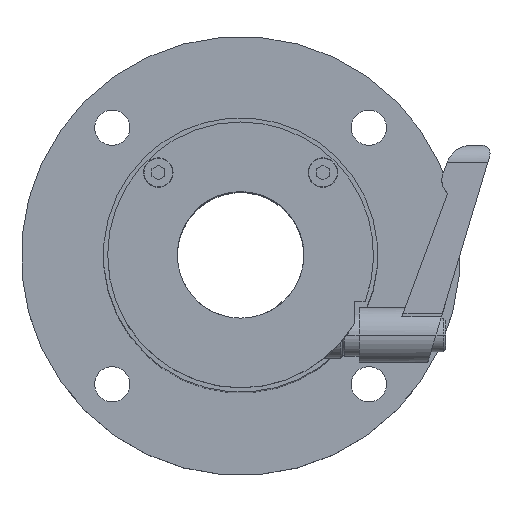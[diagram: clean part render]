
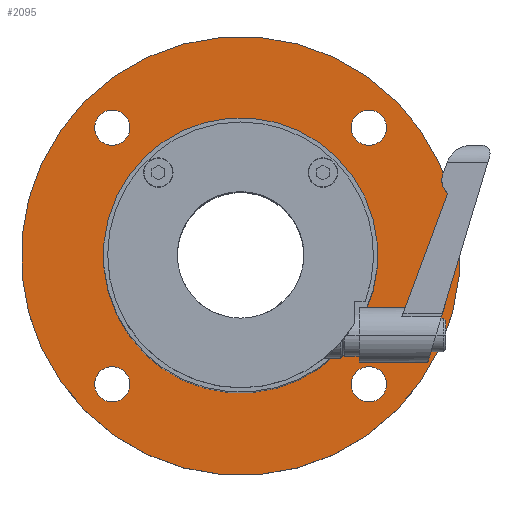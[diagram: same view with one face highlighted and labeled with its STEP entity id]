
A CAD part, top view. The second image highlights one B-rep face of the part: STEP entity #2095.
In plain terms, the highlighted planar face has unit normal (0, 0, 1).
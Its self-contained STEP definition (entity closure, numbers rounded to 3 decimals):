
#106 = CIRCLE ( 'NONE', #7215, 4.188 ) ;
#140 = DIRECTION ( 'NONE',  ( 0., 0., -1. ) ) ;
#303 = EDGE_LOOP ( 'NONE', ( #3885, #5849 ) ) ;
#331 = EDGE_CURVE ( 'NONE', #6676, #7231, #5497, .T. ) ;
#374 = EDGE_CURVE ( 'NONE', #6677, #3215, #106, .T. ) ;
#390 = ORIENTED_EDGE ( 'NONE', *, *, #8120, .T. ) ;
#546 = AXIS2_PLACEMENT_3D ( 'NONE', #9516, #7264, #3680 ) ;
#615 = CARTESIAN_POINT ( 'NONE',  ( 34.511, 35.64, 87.078 ) ) ;
#652 = VERTEX_POINT ( 'NONE', #818 ) ;
#767 = EDGE_LOOP ( 'NONE', ( #9539, #4056 ) ) ;
#787 = VERTEX_POINT ( 'NONE', #3129 ) ;
#818 = CARTESIAN_POINT ( 'NONE',  ( -39.028, -37.899, 87.078 ) ) ;
#850 = ORIENTED_EDGE ( 'NONE', *, *, #2301, .T. ) ;
#995 = EDGE_CURVE ( 'NONE', #652, #9198, #1023, .T. ) ;
#999 = CIRCLE ( 'NONE', #7642, 4.188 ) ;
#1023 = CIRCLE ( 'NONE', #4106, 52. ) ;
#1034 = CIRCLE ( 'NONE', #8464, 32.5 ) ;
#1092 = EDGE_LOOP ( 'NONE', ( #4636, #390 ) ) ;
#1193 = DIRECTION ( 'NONE',  ( 0.707, -0.707, 0. ) ) ;
#1396 = ORIENTED_EDGE ( 'NONE', *, *, #9412, .T. ) ;
#1491 = DIRECTION ( 'NONE',  ( 0.707, 0.707, 0. ) ) ;
#1547 = DIRECTION ( 'NONE',  ( -0.707, 0.707, 0. ) ) ;
#1620 = CARTESIAN_POINT ( 'NONE',  ( -32.664, 29.276, 87.078 ) ) ;
#1788 = DIRECTION ( 'NONE',  ( 0., 0., -1. ) ) ;
#1843 = VERTEX_POINT ( 'NONE', #9360 ) ;
#1849 = DIRECTION ( 'NONE',  ( -0.707, 0.707, 0. ) ) ;
#1911 = CARTESIAN_POINT ( 'NONE',  ( 28.147, 29.276, 87.078 ) ) ;
#2025 = DIRECTION ( 'NONE',  ( 0., 0., -1. ) ) ;
#2060 = CARTESIAN_POINT ( 'NONE',  ( 25.186, 32.238, 87.078 ) ) ;
#2089 = CARTESIAN_POINT ( 'NONE',  ( 31.109, 26.315, 87.078 ) ) ;
#2095 = ADVANCED_FACE ( 'NONE', ( #2939, #2185, #2900, #2980, #5898, #3724 ), #5078, .T. ) ;
#2163 = AXIS2_PLACEMENT_3D ( 'NONE', #8009, #4109, #4246 ) ;
#2185 = FACE_BOUND ( 'NONE', #5767, .T. ) ;
#2245 = EDGE_CURVE ( 'NONE', #5823, #787, #6466, .T. ) ;
#2278 = CARTESIAN_POINT ( 'NONE',  ( -32.134, -31.004, 87.078 ) ) ;
#2301 = EDGE_CURVE ( 'NONE', #1843, #4745, #3218, .T. ) ;
#2342 = CARTESIAN_POINT ( 'NONE',  ( -2.258, -1.129, 87.078 ) ) ;
#2420 = DIRECTION ( 'NONE',  ( -0.707, -0.707, 0. ) ) ;
#2494 = DIRECTION ( 'NONE',  ( 0., 0., -1. ) ) ;
#2513 = EDGE_LOOP ( 'NONE', ( #8879, #1396 ) ) ;
#2685 = CARTESIAN_POINT ( 'NONE',  ( 28.147, -31.535, 87.078 ) ) ;
#2710 = CIRCLE ( 'NONE', #7986, 52. ) ;
#2721 = AXIS2_PLACEMENT_3D ( 'NONE', #3312, #3222, #4144 ) ;
#2753 = CIRCLE ( 'NONE', #3988, 4.188 ) ;
#2900 = FACE_BOUND ( 'NONE', #2513, .T. ) ;
#2908 = CIRCLE ( 'NONE', #5843, 4.188 ) ;
#2939 = FACE_OUTER_BOUND ( 'NONE', #303, .T. ) ;
#2980 = FACE_BOUND ( 'NONE', #7607, .T. ) ;
#3129 = CARTESIAN_POINT ( 'NONE',  ( -29.703, -34.496, 87.078 ) ) ;
#3175 = VERTEX_POINT ( 'NONE', #3353 ) ;
#3215 = VERTEX_POINT ( 'NONE', #8545 ) ;
#3218 = CIRCLE ( 'NONE', #2163, 4.188 ) ;
#3222 = DIRECTION ( 'NONE',  ( 0., 0., -1. ) ) ;
#3257 = DIRECTION ( 'NONE',  ( 0., 0., -1. ) ) ;
#3312 = CARTESIAN_POINT ( 'NONE',  ( -32.664, -31.535, 87.078 ) ) ;
#3337 = CIRCLE ( 'NONE', #2721, 4.188 ) ;
#3353 = CARTESIAN_POINT ( 'NONE',  ( -25.239, -24.11, 87.078 ) ) ;
#3411 = CARTESIAN_POINT ( 'NONE',  ( -2.258, -1.129, 87.078 ) ) ;
#3680 = DIRECTION ( 'NONE',  ( -0.707, -0.707, 0. ) ) ;
#3724 = FACE_BOUND ( 'NONE', #1092, .T. ) ;
#3885 = ORIENTED_EDGE ( 'NONE', *, *, #995, .F. ) ;
#3988 = AXIS2_PLACEMENT_3D ( 'NONE', #1911, #2494, #1193 ) ;
#4005 = EDGE_CURVE ( 'NONE', #4745, #1843, #999, .T. ) ;
#4043 = DIRECTION ( 'NONE',  ( -0.707, -0.707, 0. ) ) ;
#4056 = ORIENTED_EDGE ( 'NONE', *, *, #8371, .T. ) ;
#4106 = AXIS2_PLACEMENT_3D ( 'NONE', #3411, #3257, #6994 ) ;
#4109 = DIRECTION ( 'NONE',  ( 0., 0., -1. ) ) ;
#4144 = DIRECTION ( 'NONE',  ( -0.707, 0.707, 0. ) ) ;
#4246 = DIRECTION ( 'NONE',  ( -0.707, -0.707, 0. ) ) ;
#4542 = DIRECTION ( 'NONE',  ( 0., 0., -1. ) ) ;
#4616 = DIRECTION ( 'NONE',  ( 0.707, -0.707, 0. ) ) ;
#4636 = ORIENTED_EDGE ( 'NONE', *, *, #6366, .T. ) ;
#4745 = VERTEX_POINT ( 'NONE', #5932 ) ;
#5078 = PLANE ( 'NONE',  #9448 ) ;
#5231 = DIRECTION ( 'NONE',  ( 0., 0., -1. ) ) ;
#5497 = CIRCLE ( 'NONE', #8484, 4.188 ) ;
#5750 = DIRECTION ( 'NONE',  ( 0., 0., 1. ) ) ;
#5767 = EDGE_LOOP ( 'NONE', ( #8987, #9418 ) ) ;
#5823 = VERTEX_POINT ( 'NONE', #6470 ) ;
#5843 = AXIS2_PLACEMENT_3D ( 'NONE', #8860, #8772, #1491 ) ;
#5849 = ORIENTED_EDGE ( 'NONE', *, *, #7923, .F. ) ;
#5898 = FACE_BOUND ( 'NONE', #767, .T. ) ;
#5932 = CARTESIAN_POINT ( 'NONE',  ( 31.109, -28.573, 87.078 ) ) ;
#6050 = DIRECTION ( 'NONE',  ( -0.707, -0.707, 0. ) ) ;
#6059 = DIRECTION ( 'NONE',  ( 0., 0., -1. ) ) ;
#6137 = CARTESIAN_POINT ( 'NONE',  ( -2.258, -1.129, 87.078 ) ) ;
#6154 = AXIS2_PLACEMENT_3D ( 'NONE', #6745, #2025, #1849 ) ;
#6366 = EDGE_CURVE ( 'NONE', #3175, #8432, #1034, .T. ) ;
#6466 = CIRCLE ( 'NONE', #6154, 4.188 ) ;
#6470 = CARTESIAN_POINT ( 'NONE',  ( -35.625, -28.573, 87.078 ) ) ;
#6676 = VERTEX_POINT ( 'NONE', #2089 ) ;
#6677 = VERTEX_POINT ( 'NONE', #9577 ) ;
#6745 = CARTESIAN_POINT ( 'NONE',  ( -32.664, -31.535, 87.078 ) ) ;
#6931 = ORIENTED_EDGE ( 'NONE', *, *, #4005, .T. ) ;
#6994 = DIRECTION ( 'NONE',  ( -0.707, -0.707, 0. ) ) ;
#7215 = AXIS2_PLACEMENT_3D ( 'NONE', #1620, #6059, #7479 ) ;
#7231 = VERTEX_POINT ( 'NONE', #2060 ) ;
#7264 = DIRECTION ( 'NONE',  ( 0., 0., -1. ) ) ;
#7479 = DIRECTION ( 'NONE',  ( 0.707, 0.707, 0. ) ) ;
#7607 = EDGE_LOOP ( 'NONE', ( #850, #6931 ) ) ;
#7642 = AXIS2_PLACEMENT_3D ( 'NONE', #2685, #1788, #4043 ) ;
#7923 = EDGE_CURVE ( 'NONE', #9198, #652, #2710, .T. ) ;
#7986 = AXIS2_PLACEMENT_3D ( 'NONE', #6137, #5231, #2420 ) ;
#8009 = CARTESIAN_POINT ( 'NONE',  ( 28.147, -31.535, 87.078 ) ) ;
#8120 = EDGE_CURVE ( 'NONE', #8432, #3175, #9563, .T. ) ;
#8371 = EDGE_CURVE ( 'NONE', #787, #5823, #3337, .T. ) ;
#8396 = CARTESIAN_POINT ( 'NONE',  ( 28.147, 29.276, 87.078 ) ) ;
#8432 = VERTEX_POINT ( 'NONE', #9308 ) ;
#8464 = AXIS2_PLACEMENT_3D ( 'NONE', #2342, #4542, #6050 ) ;
#8484 = AXIS2_PLACEMENT_3D ( 'NONE', #8396, #140, #4616 ) ;
#8545 = CARTESIAN_POINT ( 'NONE',  ( -29.703, 32.238, 87.078 ) ) ;
#8772 = DIRECTION ( 'NONE',  ( 0., 0., -1. ) ) ;
#8860 = CARTESIAN_POINT ( 'NONE',  ( -32.664, 29.276, 87.078 ) ) ;
#8879 = ORIENTED_EDGE ( 'NONE', *, *, #331, .T. ) ;
#8974 = EDGE_CURVE ( 'NONE', #3215, #6677, #2908, .T. ) ;
#8987 = ORIENTED_EDGE ( 'NONE', *, *, #8974, .T. ) ;
#9198 = VERTEX_POINT ( 'NONE', #615 ) ;
#9308 = CARTESIAN_POINT ( 'NONE',  ( 20.723, 21.852, 87.078 ) ) ;
#9360 = CARTESIAN_POINT ( 'NONE',  ( 25.186, -34.496, 87.078 ) ) ;
#9412 = EDGE_CURVE ( 'NONE', #7231, #6676, #2753, .T. ) ;
#9418 = ORIENTED_EDGE ( 'NONE', *, *, #374, .T. ) ;
#9448 = AXIS2_PLACEMENT_3D ( 'NONE', #2278, #5750, #1547 ) ;
#9516 = CARTESIAN_POINT ( 'NONE',  ( -2.258, -1.129, 87.078 ) ) ;
#9539 = ORIENTED_EDGE ( 'NONE', *, *, #2245, .T. ) ;
#9563 = CIRCLE ( 'NONE', #546, 32.5 ) ;
#9577 = CARTESIAN_POINT ( 'NONE',  ( -35.625, 26.315, 87.078 ) ) ;
